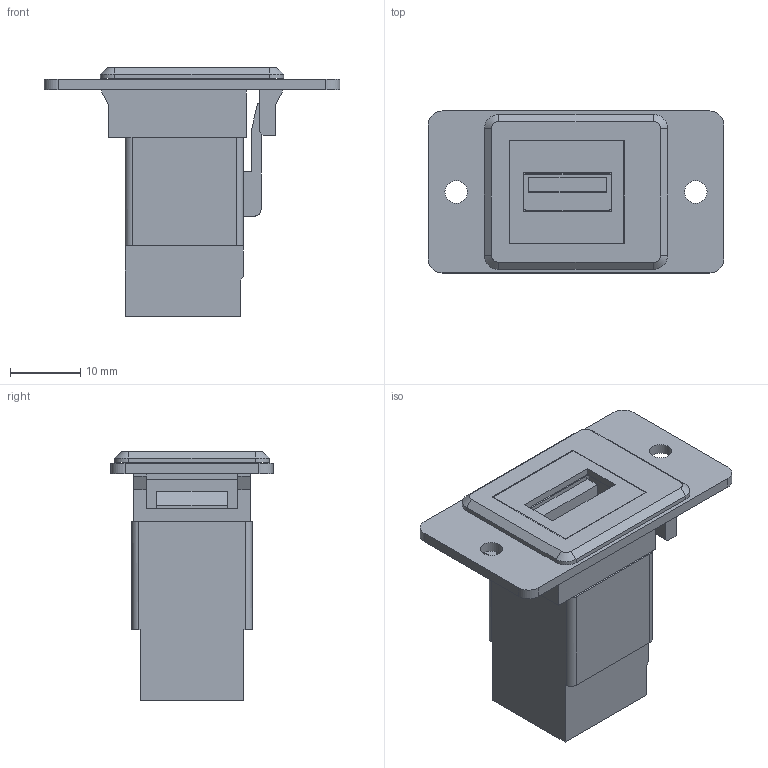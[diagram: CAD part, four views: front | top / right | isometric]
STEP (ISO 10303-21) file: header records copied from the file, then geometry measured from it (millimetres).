
FILE_DESCRIPTION(('FreeCAD Model'),'2;1');
FILE_NAME('Open CASCADE Shape Model','2026-05-19T14:12:35',(''),(''), 'Open CASCADE STEP processor 7.8','FreeCAD','Unknown');
FILE_SCHEMA(('AUTOMOTIVE_DESIGN { 1 0 10303 214 1 1 1 1 }'));
Length unit declared in the file: millimetre
Products named in the file (5): PMBST_USB2A_BK; PMBZL_SL; SIM-BZALPL-SL; TB-037_3013BUS12xx_SD; TB-028_210USB06N2xx_SD
Assembly tree (4 placements, depth 3):
  PMBST_USB2A_BK
    PMBZL_SL
      SIM-BZALPL-SL
      TB-037_3013BUS12xx_SD
    TB-028_210USB06N2xx_SD
Bounding box: 42 x 23 x 35.29 mm (x, y, z)
Volume: 10411.2 mm3; surface area: 7672.9 mm2
Topology: 3 solids, 3 shells, 177 faces, 490 edges, 324 vertices
Faces by surface type: bspline 157, plane 10, cylinder 10
Full cylindrical faces by diameter (mm): 3.2 x2
Entity records: 7517 total; most frequent: CARTESIAN_POINT 4203, ORIENTED_EDGE 980, EDGE_CURVE 490, B_SPLINE_CURVE_WITH_KNOTS 436, VERTEX_POINT 324, FACE_BOUND 194, EDGE_LOOP 194, ADVANCED_FACE 177
